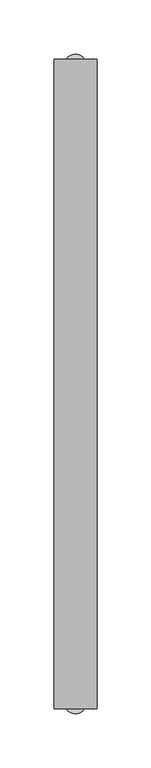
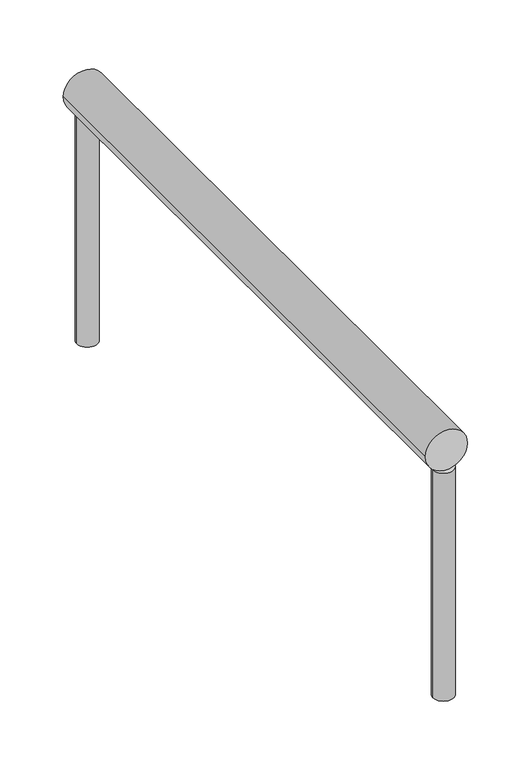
"""IFC4 building model written with IfcOpenShell, lengths in millimetres: railing geometry, Geländer-1."""

from ifc_helpers import new_model, si_unit, point, frame, frame_2d, origin, place, context, project, spatial, circle_curve, trimmed, segment, composite_curve, outline, extrude, source, transform, mapped, element, save


def railing_c6eb6142(model_context):
    return source(origin(), model_context, "Body", "SweptSolid", [
        extrude(outline(composite_curve([segment(trimmed(circle_curve(frame_2d((1800.0, 3621.9487841)), 20.0), [point((1800.0, 3641.9487841))], [point((1800.0, 3601.9487841))], False, "CARTESIAN"), True, "CONTINUOUS"), segment(trimmed(circle_curve(frame_2d((1800.0, 3621.9487841)), 20.0), [point((1800.0, 3601.9487841))], [point((1800.0, 3641.9487841))], False, "CARTESIAN"), True, "CONTINUOUS")], self_intersect=False)), frame((0.0, -607.3162614, 0.0), z_axis=(0.0, 1.0, 0.0), x_axis=(0.0, 0.0, 1.0)), (0.0, 0.0, 1.0), 600.0),
        extrude(outline(composite_curve([segment(trimmed(circle_curve(frame_2d((3621.9487841, -602.3162614)), 10.0), [point((3631.9487841, -602.3162614))], [point((3611.9487841, -602.3162614))], False, "CARTESIAN"), True, "CONTINUOUS"), segment(trimmed(circle_curve(frame_2d((3621.9487841, -602.3162614)), 10.0), [point((3611.9487841, -602.3162614))], [point((3631.9487841, -602.3162614))], False, "CARTESIAN"), True, "CONTINUOUS")], self_intersect=False)), frame((0.0, 0.0, 1550.0), z_axis=(0.0, 0.0, 1.0), x_axis=(1.0, 0.0, 0.0)), (0.0, 0.0, 1.0), 230.0),
        extrude(outline(composite_curve([segment(trimmed(circle_curve(frame_2d((3621.9487841, -12.3162614)), 10.0), [point((3631.9487841, -12.3162614))], [point((3611.9487841, -12.3162614))], False, "CARTESIAN"), True, "CONTINUOUS"), segment(trimmed(circle_curve(frame_2d((3621.9487841, -12.3162614)), 10.0), [point((3611.9487841, -12.3162614))], [point((3631.9487841, -12.3162614))], False, "CARTESIAN"), True, "CONTINUOUS")], self_intersect=False)), frame((0.0, 0.0, 1550.0), z_axis=(0.0, 0.0, 1.0), x_axis=(1.0, 0.0, 0.0)), (0.0, 0.0, 1.0), 230.0),
    ])


if __name__ == "__main__":
    model = new_model("IFC4")
    model_context = context("Model", 3, world=origin())
    ifc_project = project(units=[si_unit("LENGTHUNIT", "METRE", prefix="MILLI")], contexts=[model_context])
    site = spatial("IfcSite", under=ifc_project)
    building = spatial("IfcBuilding", under=site)
    placement = place(None, origin())
    railing_shape = railing_c6eb6142(model_context)
    element("IfcRailing", 1, ObjectType="Geländer-1", at=placement, inside=building, context=model_context, shape_type="MappedRepresentation", body=[
        mapped(railing_shape, transform((0.0, 0.0, 0.0), x_axis=(1.0, 0.0, 0.0), y_axis=(0.0, 1.0, 0.0), z_axis=(0.0, 0.0, 1.0))),
    ])
    save(model, "model.ifc")
